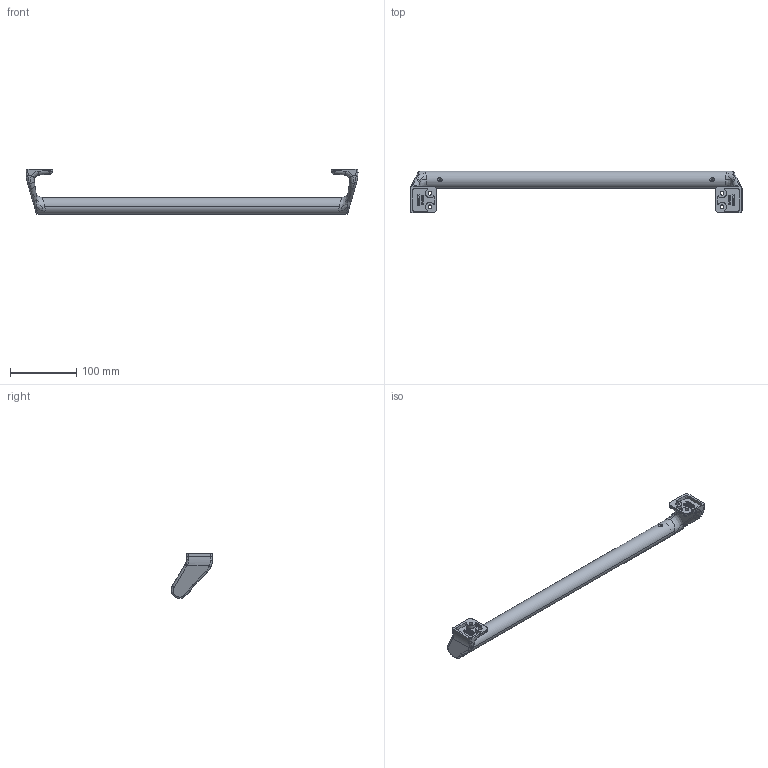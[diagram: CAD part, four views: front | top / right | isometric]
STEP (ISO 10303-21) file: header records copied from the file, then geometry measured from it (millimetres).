
FILE_DESCRIPTION (( 'STEP AP214' ), '1' );
FILE_NAME ('A73 KA-1223-3.STEP', '2016-11-24T02:34:43', ( '' ), ( '' ), 'SwSTEP 2.0', 'SolidWorks 2011', '' );
FILE_SCHEMA (( 'AUTOMOTIVE_DESIGN' ));
Length unit declared in the file: millimetre
Products named in the file (1): A73 KA-1223-3
Bounding box: 500 x 62.8 x 67.8 mm (x, y, z)
Volume: 128958 mm3; surface area: 90561 mm2
Topology: 1 solids, 1 shells, 520 faces, 1374 edges, 876 vertices
Faces by surface type: plane 254, bspline 146, cylinder 92, cone 28
Entity records: 23948 total; most frequent: CARTESIAN_POINT 12023, ORIENTED_EDGE 2724, DIRECTION 1936, EDGE_CURVE 1362, VERTEX_POINT 876, LINE 850, VECTOR 850, EDGE_LOOP 566
